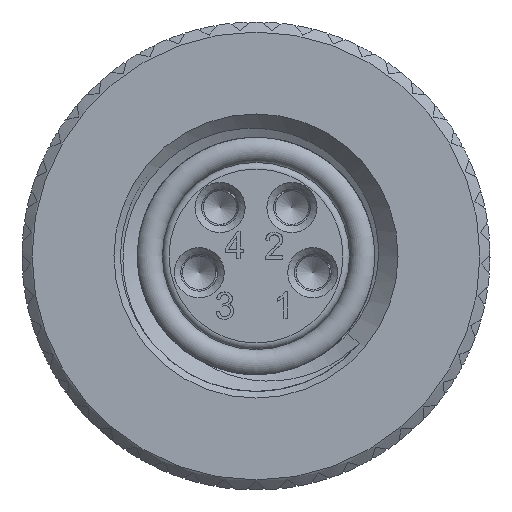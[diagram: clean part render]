
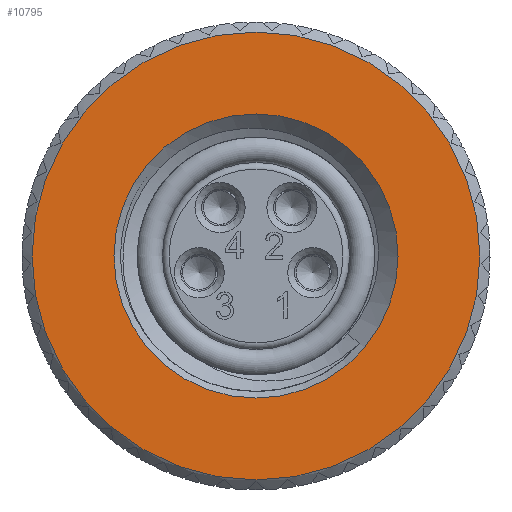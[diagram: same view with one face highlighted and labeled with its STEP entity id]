
A CAD part, left-side view. The second image highlights one B-rep face of the part: STEP entity #10795.
In plain terms, the highlighted planar face has unit normal (-1, 0, 0).
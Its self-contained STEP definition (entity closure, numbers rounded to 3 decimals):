
#1246=PLANE('',#12960);
#4003=EDGE_LOOP('',(#5483));
#4004=EDGE_LOOP('',(#5484));
#5483=ORIENTED_EDGE('',*,*,#8916,.T.);
#5484=ORIENTED_EDGE('',*,*,#8917,.T.);
#8916=EDGE_CURVE('',#11998,#11998,#10179,.T.);
#8917=EDGE_CURVE('',#11999,#11999,#10180,.T.);
#10179=CIRCLE('',#12957,4.25);
#10180=CIRCLE('',#12959,6.7);
#10795=ADVANCED_FACE('',(#11371,#11372),#1246,.F.);
#11371=FACE_BOUND('',#4003,.T.);
#11372=FACE_BOUND('',#4004,.T.);
#11998=VERTEX_POINT('',#25154);
#11999=VERTEX_POINT('',#25157);
#12957=AXIS2_PLACEMENT_3D('',#25153,#14669,#14670);
#12959=AXIS2_PLACEMENT_3D('',#25156,#14673,#14674);
#12960=AXIS2_PLACEMENT_3D('',#25158,#14675,#14676);
#14669=DIRECTION('',(1.,0.,0.));
#14670=DIRECTION('',(0.,0.,-1.));
#14673=DIRECTION('',(-1.,0.,0.));
#14674=DIRECTION('',(0.,0.,-1.));
#14675=DIRECTION('',(1.,0.,0.));
#14676=DIRECTION('',(0.,0.,-1.));
#25153=CARTESIAN_POINT('',(7.9,0.,0.));
#25154=CARTESIAN_POINT('',(7.9,0.,-4.25));
#25156=CARTESIAN_POINT('',(7.9,0.,0.));
#25157=CARTESIAN_POINT('',(7.9,0.,-6.7));
#25158=CARTESIAN_POINT('',(7.9,0.,7.));
